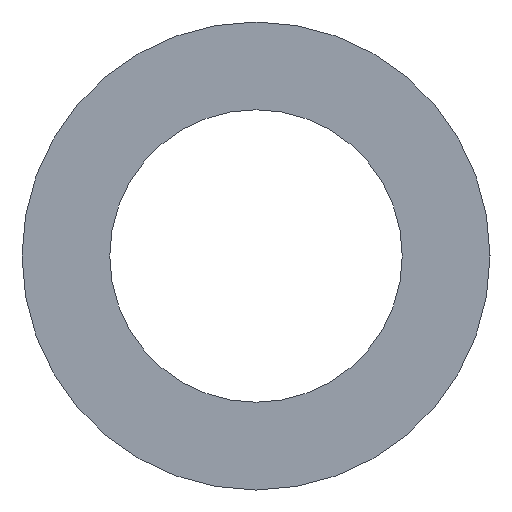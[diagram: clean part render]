
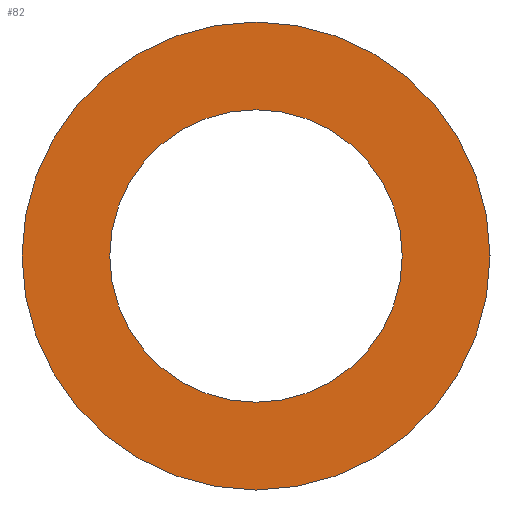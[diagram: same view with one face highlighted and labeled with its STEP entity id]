
A CAD part, left-side view. The second image highlights one B-rep face of the part: STEP entity #82.
In plain terms, the highlighted planar face has unit normal (-1, 0, 0).
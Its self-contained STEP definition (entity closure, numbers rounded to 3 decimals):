
#82 = ADVANCED_FACE( '', ( #109, #110 ), #111, .T. );
#109 = FACE_BOUND( '', #145, .T. );
#110 = FACE_OUTER_BOUND( '', #146, .T. );
#111 = PLANE( '', #147 );
#145 = EDGE_LOOP( '', ( #195 ) );
#146 = EDGE_LOOP( '', ( #196 ) );
#147 = AXIS2_PLACEMENT_3D( '', #197, #198, #199 );
#195 = ORIENTED_EDGE( '', *, *, #229, .T. );
#196 = ORIENTED_EDGE( '', *, *, #228, .F. );
#197 = CARTESIAN_POINT( '', ( 0., 16., 0. ) );
#198 = DIRECTION( '', ( -1., 0., 0. ) );
#199 = DIRECTION( '', ( 0., 0., 1. ) );
#228 = EDGE_CURVE( '', #248, #248, #249, .T. );
#229 = EDGE_CURVE( '', #250, #250, #251, .T. );
#248 = VERTEX_POINT( '', #272 );
#249 = CIRCLE( '', #273, 16. );
#250 = VERTEX_POINT( '', #274 );
#251 = CIRCLE( '', #275, 10. );
#272 = CARTESIAN_POINT( '', ( 0., 0., -16. ) );
#273 = AXIS2_PLACEMENT_3D( '', #304, #305, #306 );
#274 = CARTESIAN_POINT( '', ( 0., 0., -10. ) );
#275 = AXIS2_PLACEMENT_3D( '', #307, #308, #309 );
#304 = CARTESIAN_POINT( '', ( 0., 0., 0. ) );
#305 = DIRECTION( '', ( 1., 0., 0. ) );
#306 = DIRECTION( '', ( 0., 0., -1. ) );
#307 = CARTESIAN_POINT( '', ( 0., 0., 0. ) );
#308 = DIRECTION( '', ( 1., 0., 0. ) );
#309 = DIRECTION( '', ( 0., 0., -1. ) );
